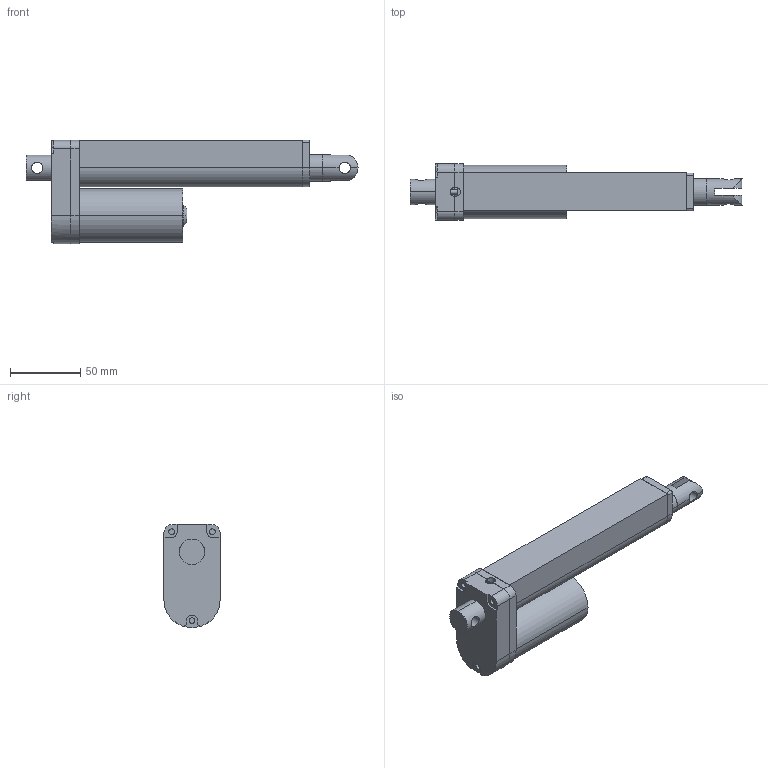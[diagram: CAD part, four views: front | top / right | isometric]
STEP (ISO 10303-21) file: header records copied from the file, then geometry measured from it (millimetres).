
FILE_DESCRIPTION((''),'2;1');
FILE_NAME('LAS-S100_ASM','2007-07-11T',('amyliao'),(''),'PRO/ENGINEER BY PARAMETRIC TECHNOLOGY CORPORATION, 2003210','PRO/ENGINEER BY PARAMETRIC TECHNOLOGY CORPORATION, 2003210','');
FILE_SCHEMA(('CONFIG_CONTROL_DESIGN'));
Length unit declared in the file: millimetre
Products named in the file (8): GEAR02; GEAR01; OUT-TUB; 1; LAS-IN-TUB_100; LAS-IN-PLUG; LAS-MOTOR; LAS-S100_ASM
Assembly tree (7 placements, depth 2):
  LAS-S100_ASM
    GEAR02
    GEAR01
    OUT-TUB
    1
    LAS-IN-TUB_100
    LAS-IN-PLUG
    LAS-MOTOR
Bounding box: 236.4 x 40 x 73.6 mm (x, y, z)
Volume: 170380.6 mm3; surface area: 87689.1 mm2
Topology: 7 solids, 7 shells, 150 faces, 393 edges, 260 vertices
Faces by surface type: cylinder 77, plane 71, cone 2
Entity records: 5111 total; most frequent: CARTESIAN_POINT 1030, DIRECTION 861, ORIENTED_EDGE 786, EDGE_CURVE 393, AXIS2_PLACEMENT_3D 315, VERTEX_POINT 260, VECTOR 231, LINE 231
